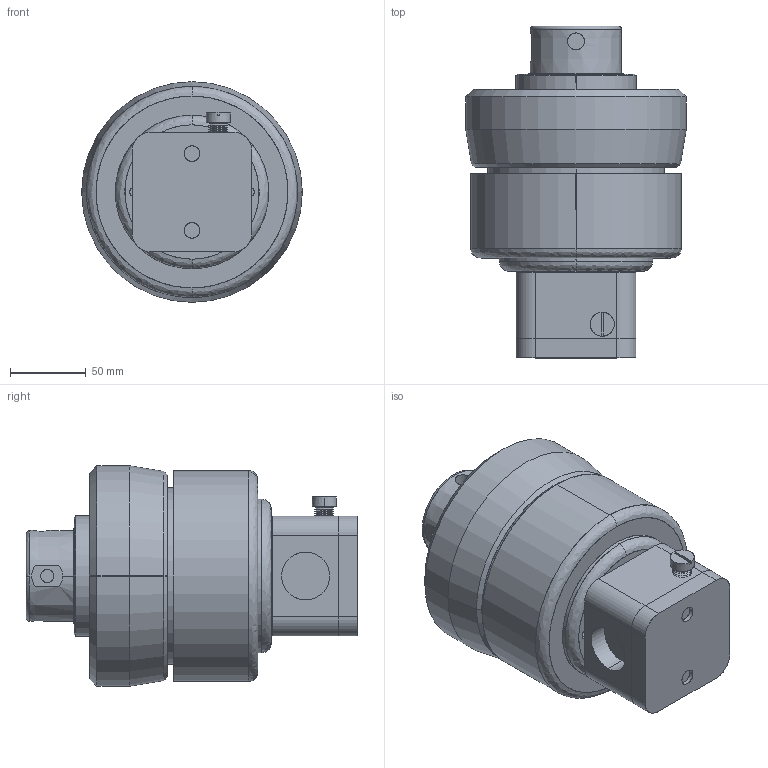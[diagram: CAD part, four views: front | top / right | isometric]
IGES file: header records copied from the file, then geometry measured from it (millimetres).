
Start section: SolidWorks IGES file using analytic representation for surfaces
Global section: file name: \\server\Users\Karen.Bodily\My Documents\defeatured\DBH060 INLINE.IGS; native system: SolidWorks 2012; preprocessor: SolidWorks 2012; author: karen.bodily; date: 130424.124913; units: inch
Bounding box: 146.05 x 219.74 x 146.05 mm (x, y, z)
Surface area: 210099.4 mm2 (no closed solid volume)
Topology: 0 solids, 0 shells, 374 faces, 5397 edges, 5397 vertices
Faces by surface type: revolution 286, bspline 88
